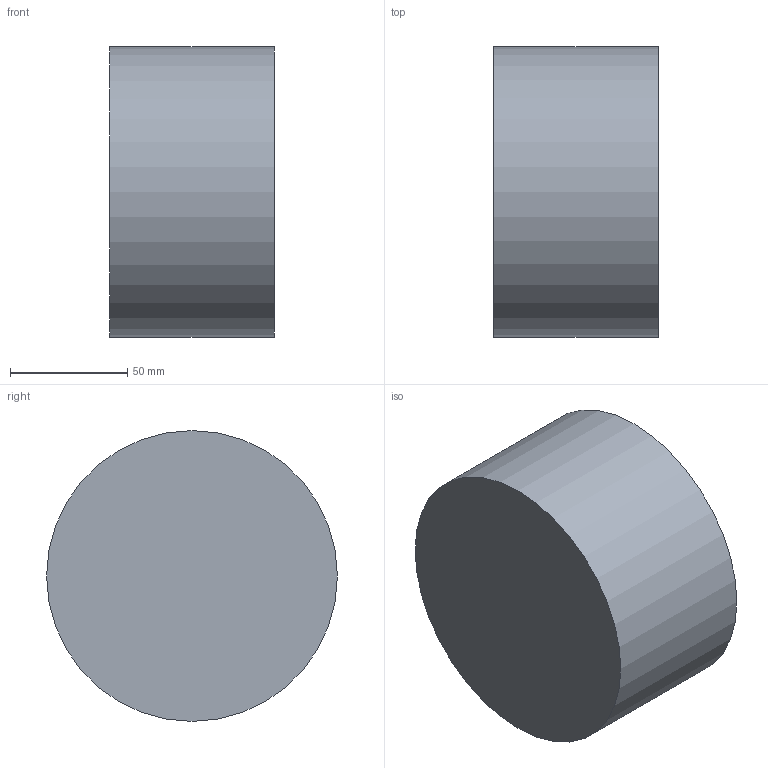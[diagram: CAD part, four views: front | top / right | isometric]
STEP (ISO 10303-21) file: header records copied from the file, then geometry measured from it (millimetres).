
FILE_DESCRIPTION(('Open CASCADE Model'),'2;1');
FILE_NAME('Open CASCADE Shape Model','2026-11-23T20:25:50',('Author'),( 'Open CASCADE'),'Open CASCADE STEP processor 7.9','Open CASCADE 7.9' ,'Unknown');
FILE_SCHEMA(('AUTOMOTIVE_DESIGN { 1 0 10303 214 1 1 1 1 }'));
Length unit declared in the file: millimetre
Products named in the file (1): Open CASCADE STEP translator 7.9 3
Bounding box: 70 x 124 x 124 mm (x, y, z)
Volume: 275140.7 mm3; surface area: 72156.1 mm2
Topology: 1 solids, 1 shells, 5 faces, 6 edges, 4 vertices
Faces by surface type: plane 3, cylinder 2
Full cylindrical faces by diameter (mm): 110 x1, 124 x1
Entity records: 192 total; most frequent: DIRECTION 34, CARTESIAN_POINT 28, ORIENTED_EDGE 12, PCURVE 12, DEFINITIONAL_REPRESENTATION 12, AXIS2_PLACEMENT_3D 10, LINE 10, VECTOR 10
